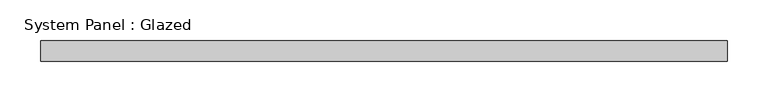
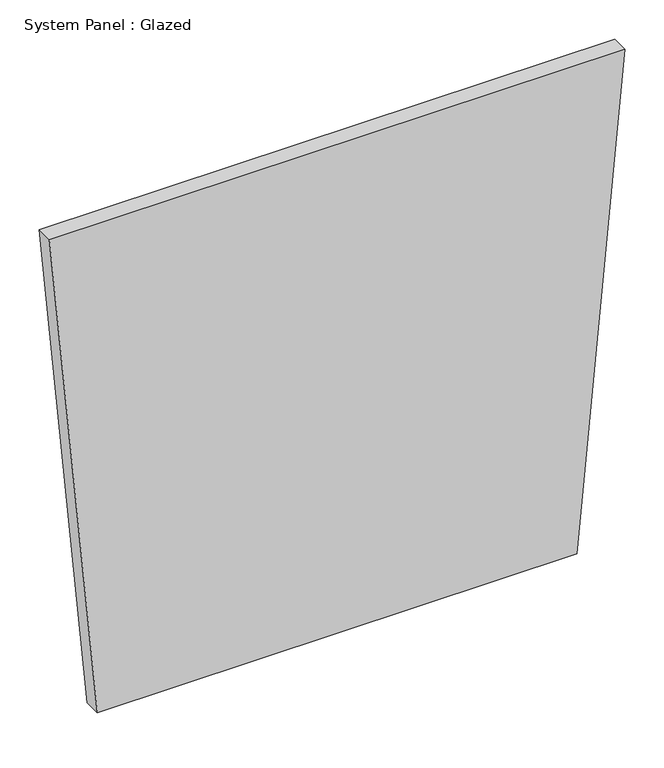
"""IFC4 building model written with IfcOpenShell, lengths in millimetres: plate geometry, System Panel : Glazed."""

from ifc_helpers import new_model, si_unit, frame, origin, place, context, project, spatial, polyline, outline, extrude, source, transform, mapped, element, save


def system_panel_glazed_80685a2c(model_context):
    return source(origin(), model_context, "Body", "SweptSolid", [
        extrude(outline(polyline([(0.0, -352.2346246), (0.0, 352.2346246), (758.7366017, 422.6815495), (758.7366017, -422.6815495), (0.0, -352.2346246)])), frame((0.0, -44.45, 0.0), z_axis=(0.0, 1.0, 0.0), x_axis=(0.0, 0.0, 1.0)), (0.0, 0.0, 1.0), 25.4),
    ])


if __name__ == "__main__":
    model = new_model("IFC4")
    model_context = context("Model", 3, world=origin())
    ifc_project = project(units=[si_unit("LENGTHUNIT", "METRE", prefix="MILLI")], contexts=[model_context])
    site = spatial("IfcSite", under=ifc_project)
    building = spatial("IfcBuilding", under=site)
    placement = place(None, origin())
    system_panel_glazed_shape = system_panel_glazed_80685a2c(model_context)
    element("IfcPlate", 1, ObjectType="System Panel : Glazed", at=placement, inside=building, context=model_context, shape_type="MappedRepresentation", body=[
        mapped(system_panel_glazed_shape, transform((0.0, 0.0, 0.0), x_axis=(1.0, 0.0, 0.0), y_axis=(0.0, 1.0, 0.0), z_axis=(0.0, 0.0, 1.0))),
    ])
    save(model, "model.ifc")
